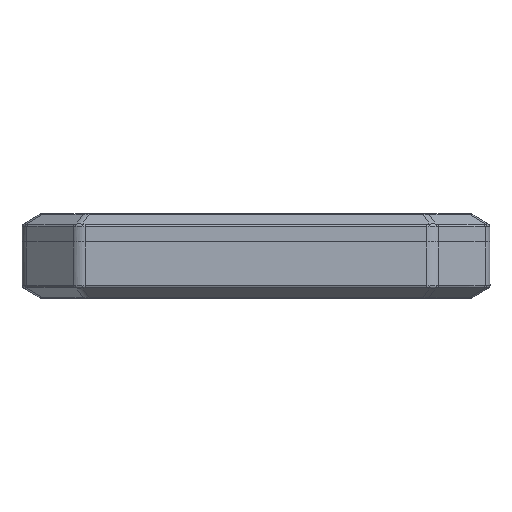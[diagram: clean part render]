
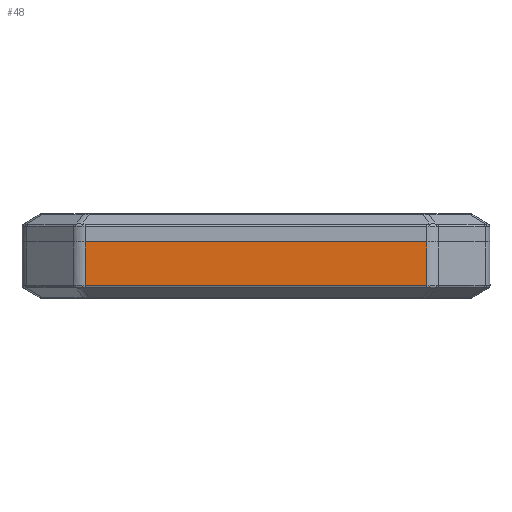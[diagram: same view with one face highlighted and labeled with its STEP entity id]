
A CAD part, front view. The second image highlights one B-rep face of the part: STEP entity #48.
In plain terms, the highlighted planar face has unit normal (0, -1, 0).
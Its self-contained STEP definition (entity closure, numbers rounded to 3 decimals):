
#48=ADVANCED_FACE('',(#274),#3368,.T.);
#274=FACE_OUTER_BOUND('',#500,.T.);
#500=EDGE_LOOP('',(#880,#881,#882,#883));
#880=ORIENTED_EDGE('',*,*,#2014,.T.);
#881=ORIENTED_EDGE('',*,*,#2015,.T.);
#882=ORIENTED_EDGE('',*,*,#1827,.T.);
#883=ORIENTED_EDGE('',*,*,#2016,.F.);
#1827=EDGE_CURVE('',#2894,#2893,#2709,.T.);
#2014=EDGE_CURVE('',#3016,#3017,#2741,.T.);
#2015=EDGE_CURVE('',#3017,#2894,#2742,.T.);
#2016=EDGE_CURVE('',#3016,#2893,#2743,.T.);
#2709=B_SPLINE_CURVE_WITH_KNOTS('',1,(#6405,#6406),.UNSPECIFIED.,.F.,.F.,
(2,2),(-46.769,-10.26),.UNSPECIFIED.);
#2741=B_SPLINE_CURVE_WITH_KNOTS('',1,(#6961,#6962),.UNSPECIFIED.,.F.,.F.,
(2,2),(0.,36.509),.UNSPECIFIED.);
#2742=B_SPLINE_CURVE_WITH_KNOTS('',1,(#6963,#6964),.UNSPECIFIED.,.F.,.F.,
(2,2),(0.17,4.8),.UNSPECIFIED.);
#2743=B_SPLINE_CURVE_WITH_KNOTS('',1,(#6965,#6966),.UNSPECIFIED.,.F.,.F.,
(2,2),(0.17,4.8),.UNSPECIFIED.);
#2893=VERTEX_POINT('',#5761);
#2894=VERTEX_POINT('',#5762);
#3016=VERTEX_POINT('',#5884);
#3017=VERTEX_POINT('',#5885);
#3368=PLANE('',#3505);
#3505=AXIS2_PLACEMENT_3D('',#4481,#3629,$);
#3629=DIRECTION('',(0.,-1.,0.));
#4481=CARTESIAN_POINT('',(90.087,-536.538,4.308));
#5761=CARTESIAN_POINT('',(52.832,-536.538,3.808));
#5762=CARTESIAN_POINT('',(89.341,-536.538,3.808));
#5884=CARTESIAN_POINT('',(52.832,-536.538,-0.822));
#5885=CARTESIAN_POINT('',(89.341,-536.538,-0.822));
#6405=CARTESIAN_POINT('',(89.341,-536.538,3.808));
#6406=CARTESIAN_POINT('',(52.832,-536.538,3.808));
#6961=CARTESIAN_POINT('',(52.832,-536.538,-0.822));
#6962=CARTESIAN_POINT('',(89.341,-536.538,-0.822));
#6963=CARTESIAN_POINT('',(89.341,-536.538,-0.822));
#6964=CARTESIAN_POINT('',(89.341,-536.538,3.808));
#6965=CARTESIAN_POINT('',(52.832,-536.538,-0.822));
#6966=CARTESIAN_POINT('',(52.832,-536.538,3.808));
